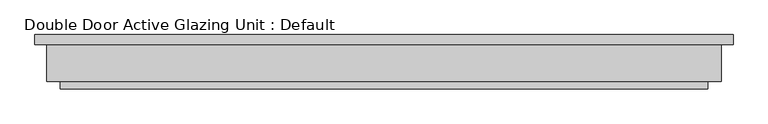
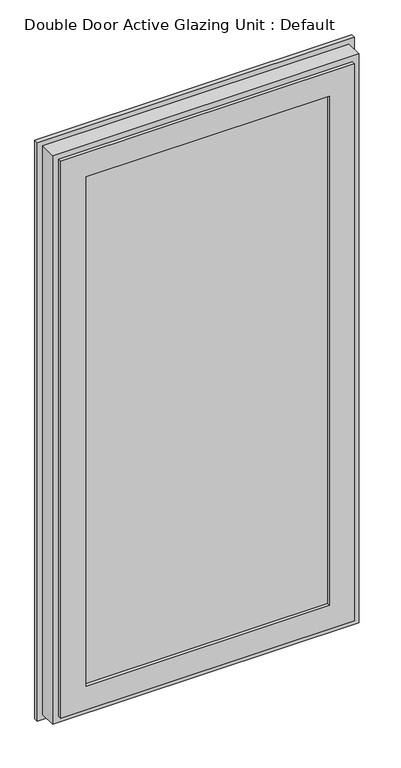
"""IFC4 building model written with IfcOpenShell, lengths in millimetres: proxy geometry, Double Door Active Glazing Unit : Default."""

from ifc_helpers import new_model, si_unit, frame, origin, place, context, project, spatial, polyline, outline, extrude, faceted_brep, source, transform, mapped, element, save


def double_door_active_glazing_unit_default_3c53baf6(model_context):
    return source(origin(), model_context, "Body", "SolidModel", [
        extrude(outline(polyline([(950.9125, -69.85), (95.25, -69.85), (95.25, -64.690625), (950.9125, -64.690625), (950.9125, -69.85)])), frame((0.0, 0.0, 92.86875), z_axis=(0.0, 0.0, 1.0), x_axis=(1.0, 0.0, 0.0)), (0.0, 0.0, 1.0), 1820.8625),
        extrude(outline(polyline([(950.9125, -46.434375), (95.25, -46.434375), (95.25, -41.275), (950.9125, -41.275), (950.9125, -46.434375)])), frame((0.0, 0.0, 92.86875), z_axis=(0.0, 0.0, 1.0), x_axis=(1.0, 0.0, 0.0)), (0.0, 0.0, 1.0), 1820.8625),
        faceted_brep([(925.5125, 0.0, 118.26875), (120.65, 0.0, 118.26875), (125.4125, -41.275, 123.03125), (920.75, -41.275, 123.03125), (927.1, -41.275, 116.68125), (119.0625, -41.275, 116.68125), (95.25, -20.6375, 92.86875), (950.9125, -20.6375, 92.86875), (95.25, -1.5875, 92.86875), (950.9125, -1.5875, 92.86875), (960.4375, -1.5875, 83.34375), (85.725, -1.5875, 83.34375), (85.725, 0.0, 83.34375), (960.4375, 0.0, 83.34375), (120.65, 0.0, 1888.33125), (125.4125, -41.275, 1883.56875), (119.0625, -41.275, 1889.91875), (95.25, -20.6375, 1913.73125), (95.25, -1.5875, 1913.73125), (85.725, -1.5875, 1923.25625), (85.725, 0.0, 1923.25625), (925.5125, 0.0, 1888.33125), (920.75, -41.275, 1883.56875), (927.1, -41.275, 1889.91875), (950.9125, -20.6375, 1913.73125), (950.9125, -1.5875, 1913.73125), (960.4375, -1.5875, 1923.25625), (960.4375, 0.0, 1923.25625)], [[[0, 1, 2, 3]], [[4, 5, 6, 7]], [[7, 6, 8, 9]], [[10, 11, 12, 13]], [[1, 14, 15, 2]], [[5, 16, 17, 6]], [[6, 17, 18, 8]], [[11, 19, 20, 12]], [[14, 21, 22, 15]], [[16, 23, 24, 17]], [[17, 24, 25, 18]], [[19, 26, 27, 20]], [[21, 0, 3, 22]], [[5, 4, 23, 16], [3, 2, 15, 22]], [[23, 4, 7, 24]], [[24, 7, 9, 25]], [[11, 10, 26, 19], [9, 8, 18, 25]], [[26, 10, 13, 27]], [[13, 12, 20, 27], [1, 0, 21, 14]]]),
        faceted_brep([(3.175, -14.2875, 2005.80625), (1042.9875, -14.2875, 2005.80625), (1042.9875, 0.0, 2005.80625), (3.175, 0.0, 2005.80625), (85.725, 0.0, 1923.25625), (960.4375, 0.0, 1923.25625), (960.4375, -14.2875, 1923.25625), (85.725, -14.2875, 1923.25625), (95.25, -14.2875, 1913.73125), (950.9125, -14.2875, 1913.73125), (950.9125, -69.85, 1913.73125), (95.25, -69.85, 1913.73125), (123.825, -69.85, 1885.15625), (922.3375, -69.85, 1885.15625), (922.3375, -80.9625, 1885.15625), (123.825, -80.9625, 1885.15625), (41.275, -80.9625, 1967.70625), (1004.8875, -80.9625, 1967.70625), (1004.8875, -69.85, 1967.70625), (41.275, -69.85, 1967.70625), (20.6375, -69.85, 1988.34375), (1025.525, -69.85, 1988.34375), (1025.525, -14.2875, 1988.34375), (20.6375, -14.2875, 1988.34375), (1042.9875, -14.2875, 0.79375), (1042.9875, 0.0, 0.79375), (960.4375, 0.0, 83.34375), (960.4375, -14.2875, 83.34375), (950.9125, -14.2875, 92.86875), (950.9125, -69.85, 92.86875), (922.3375, -69.85, 121.44375), (922.3375, -80.9625, 121.44375), (1004.8875, -80.9625, 38.89375), (1004.8875, -69.85, 38.89375), (1025.525, -69.85, 18.25625), (1025.525, -14.2875, 18.25625), (3.175, -14.2875, 0.79375), (3.175, 0.0, 0.79375), (85.725, 0.0, 83.34375), (85.725, -14.2875, 83.34375), (95.25, -14.2875, 92.86875), (95.25, -69.85, 92.86875), (123.825, -69.85, 121.44375), (123.825, -80.9625, 121.44375), (41.275, -80.9625, 38.89375), (41.275, -69.85, 38.89375), (20.6375, -69.85, 18.25625), (20.6375, -14.2875, 18.25625)], [[[0, 1, 2, 3]], [[4, 5, 6, 7]], [[8, 9, 10, 11]], [[12, 13, 14, 15]], [[16, 17, 18, 19]], [[20, 21, 22, 23]], [[1, 24, 25, 2]], [[5, 26, 27, 6]], [[9, 28, 29, 10]], [[13, 30, 31, 14]], [[17, 32, 33, 18]], [[21, 34, 35, 22]], [[24, 36, 37, 25]], [[26, 38, 39, 27]], [[28, 40, 41, 29]], [[30, 42, 43, 31]], [[32, 44, 45, 33]], [[34, 46, 47, 35]], [[36, 0, 3, 37]], [[3, 2, 25, 37], [5, 4, 38, 26]], [[38, 4, 7, 39]], [[7, 6, 27, 39], [9, 8, 40, 28]], [[40, 8, 11, 41]], [[11, 10, 29, 41], [13, 12, 42, 30]], [[42, 12, 15, 43]], [[17, 16, 44, 32], [15, 14, 31, 43]], [[44, 16, 19, 45]], [[21, 20, 46, 34], [19, 18, 33, 45]], [[46, 20, 23, 47]], [[1, 0, 36, 24], [23, 22, 35, 47]]]),
    ])


if __name__ == "__main__":
    model = new_model("IFC4")
    model_context = context("Model", 3, world=origin())
    ifc_project = project(units=[si_unit("LENGTHUNIT", "METRE", prefix="MILLI")], contexts=[model_context])
    site = spatial("IfcSite", under=ifc_project)
    building = spatial("IfcBuilding", under=site)
    placement = place(None, origin())
    double_door_active_glazing_unit_default_shape = double_door_active_glazing_unit_default_3c53baf6(model_context)
    element("IfcBuildingElementProxy", 1, Name="Double Door Active Glazing Unit : Default", ObjectType="Double Door Active Glazing Unit : Default", at=placement, inside=building, context=model_context, shape_type="MappedRepresentation", body=[
        mapped(double_door_active_glazing_unit_default_shape, transform((0.0, 0.0, 0.0), x_axis=(1.0, 0.0, 0.0), y_axis=(0.0, 1.0, 0.0), z_axis=(0.0, 0.0, 1.0))),
    ])
    save(model, "model.ifc")
